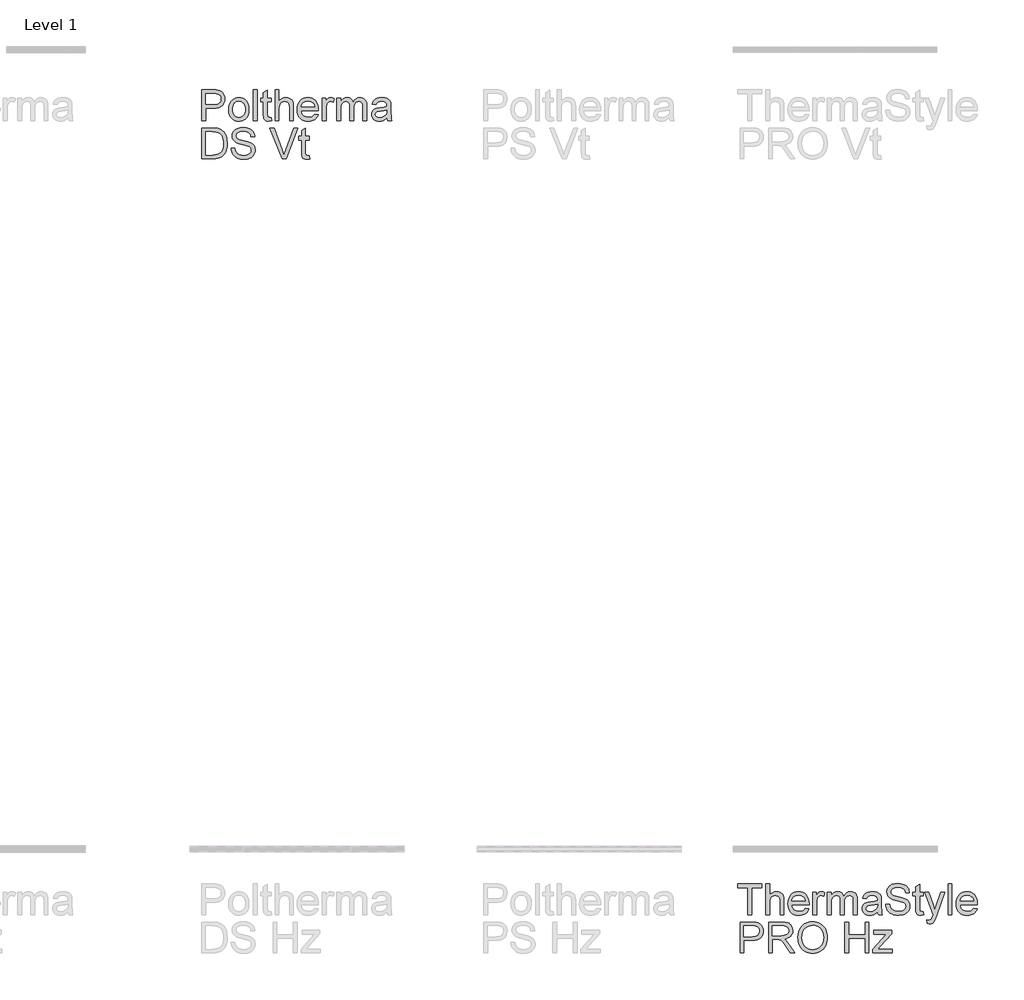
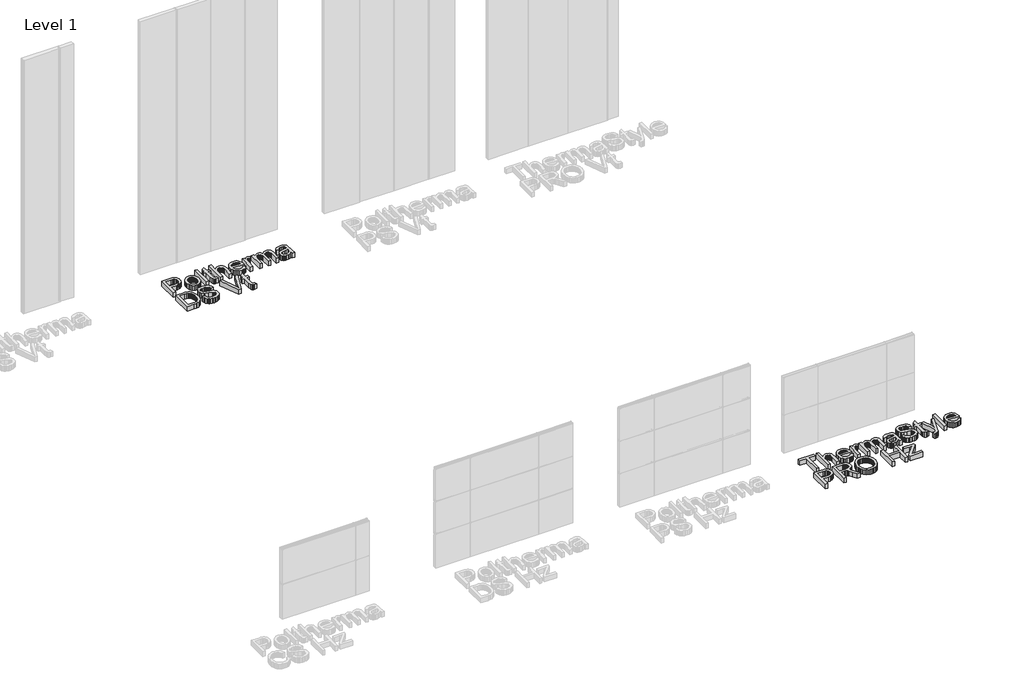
# One storey, part 19 of 27: 2 proxies.
"""IFC4 building model written with IfcOpenShell, lengths in millimetres."""

from ifc_helpers import new_model, si_unit, origin, origin_with_axes, place, context, project, spatial, polyline, outline, extrude, element, save

model = new_model("IFC4")

# Units and contexts
model_context = context("Model", 3, world=origin())
ifc_project = project(units=[si_unit("LENGTHUNIT", "METRE", prefix="MILLI")], contexts=[model_context])

# Site, building, storey
site = spatial("IfcSite", under=ifc_project)
building = spatial("IfcBuilding", under=site)
storey = spatial("IfcBuildingStorey", under=building, Name="Level 1", Elevation=0.0)

# Proxies
placement = place(None, origin())
element("IfcBuildingElementProxy", 1, Name="600mm Arial", ObjectType="600mm Arial", at=placement, inside=storey, context=model_context, shape_type="SweptSolid", body=[
    extrude(outline(polyline([(251.3160797, -4357.7938606), (251.3160797, -3767.0246299), (470.2583874, -3767.0246299), (521.2439643, -3768.4308799), (558.5276182, -3772.6496299), (597.8845893, -3783.1604472), (630.2824259, -3800.2698222), (656.3701663, -3824.7529953), (676.7968489, -3857.3852068), (689.9939643, -3895.8767933), (694.3930028, -3937.9380914), (691.4227504, -3974.2031154), (682.5119932, -4007.5654953), (667.6607312, -4038.0252308), (646.8689643, -4065.5823222), (618.3247937, -4088.4248703), (580.2163201, -4104.740976), (532.5435437, -4114.5306395), (475.3064643, -4117.7938606), (325.1622336, -4117.7938606), (325.1622336, -4357.7938606), (251.3160797, -4357.7938606)]), holes=[polyline([(325.1622336, -4043.9477068), (479.6333874, -4043.9477068), (515.1502143, -4042.2529953), (545.1141566, -4037.1688606), (569.5252143, -4028.6953029), (588.3833874, -4016.8323222), (602.4549018, -4001.8954231), (612.5059836, -3984.2001106), (618.5366326, -3963.7463847), (620.5468489, -3940.5342453), (615.8052624, -3907.3611683), (601.5805028, -3879.3803991), (579.639397, -3858.3227068), (551.748772, -3845.9188606), (523.2631951, -3842.1328029), (477.9026182, -3840.8707837), (325.1622336, -3840.8707837), (325.1622336, -4043.9477068)])]), origin_with_axes(), (0.0, 0.0, 1.0), 150.0),
    extrude(outline(polyline([(768.2391566, -4140.8707837), (772.2325461, -4084.6838847), (784.2127143, -4036.2674183), (804.1796614, -3995.6213847), (832.1333874, -3962.7457837), (860.2764163, -3941.7331635), (891.3401182, -3926.7241491), (925.3244932, -3917.7187404), (962.2295413, -3914.7169376), (1002.9702263, -3918.3722861), (1039.8076663, -3929.3383318), (1072.741861, -3947.6150746), (1101.7728105, -3973.2025145), (1125.4672215, -4005.2352669), (1142.3918009, -4042.8479472), (1152.5465485, -4086.0405553), (1155.9314643, -4134.8130914), (1154.4350701, -4174.3413366), (1149.9458874, -4209.4164568), (1142.4639163, -4240.038452), (1131.9891566, -4266.2073222), (1118.6523177, -4288.810988), (1102.5841086, -4308.7373703), (1083.7845292, -4325.9864688), (1062.2535797, -4340.5582837), (1038.8296013, -4352.1373102), (1014.3509355, -4360.4080433), (988.8175821, -4365.3704832), (962.2295413, -4367.0246299), (920.8939042, -4363.3828029), (883.7139163, -4352.4573222), (850.6895773, -4334.2481876), (821.8208874, -4308.7553991), (798.3788802, -4276.4116491), (781.6345893, -4237.6496299), (771.5880148, -4192.4693414), (768.2391566, -4140.8707837)]), holes=[polyline([(842.0853105, -4140.7265529), (844.2217288, -4176.545363), (850.6309836, -4207.5594856), (861.3130749, -4233.7689207), (876.2680028, -4255.1736683), (894.4591086, -4271.8007717), (914.8497336, -4283.6772741), (937.4398778, -4290.8031755), (962.2295413, -4293.178476), (986.8930028, -4290.7896539), (1009.3930028, -4283.6231876), (1029.7295413, -4271.679077), (1047.9026182, -4254.9573222), (1062.8575461, -4233.3407356), (1073.5396374, -4206.7121299), (1079.9488922, -4175.0715049), (1082.0853105, -4138.4188606), (1079.9353706, -4103.7358678), (1073.4855509, -4073.5330433), (1062.7358513, -4047.8103871), (1047.686272, -4026.5678991), (1029.4455869, -4009.9407957), (1009.1225701, -3998.0642933), (986.7172215, -3990.9383919), (962.2295413, -3988.5630914), (937.4398778, -3990.9293775), (914.8497336, -3998.0282356), (894.4591086, -4009.8596659), (876.2680028, -4026.4236683), (861.3130749, -4047.765315), (850.6309836, -4073.9296779), (844.2217288, -4104.9167573), (842.0853105, -4140.7265529)])]), origin_with_axes(), (0.0, 0.0, 1.0), 150.0),
    extrude(outline(polyline([(1239.0083874, -4357.7938606), (1239.0083874, -3767.0246299), (1312.8545413, -3767.0246299), (1312.8545413, -4357.7938606), (1239.0083874, -4357.7938606)])), origin_with_axes(), (0.0, 0.0, 1.0), 150.0),
    extrude(outline(polyline([(1580.5468489, -4296.2073222), (1589.7776182, -4359.9573222), (1534.5372336, -4367.0246299), (1499.092522, -4363.959726), (1472.6622336, -4354.7650145), (1453.9843489, -4340.5943414), (1441.7968489, -4322.6015529), (1435.0901182, -4291.7001106), (1432.8545413, -4238.803476), (1432.8545413, -3997.7938606), (1377.4699259, -3997.7938606), (1377.4699259, -3923.9477068), (1432.8545413, -3923.9477068), (1432.8545413, -3818.5150145), (1506.7006951, -3775.1015529), (1506.7006951, -3923.9477068), (1580.5468489, -3923.9477068), (1580.5468489, -3997.7938606), (1506.7006951, -3997.7938606), (1506.7006951, -4236.6400145), (1510.5949259, -4274.7169376), (1523.2151182, -4288.2025145), (1533.8701663, -4291.9344856), (1548.3833874, -4293.178476), (1580.5468489, -4296.2073222)])), origin_with_axes(), (0.0, 0.0, 1.0), 150.0),
    extrude(outline(polyline([(1654.3930028, -4357.7938606), (1654.3930028, -3767.0246299), (1728.2391566, -3767.0246299), (1728.2391566, -3984.2361683), (1755.3635557, -3953.8215049), (1785.8232913, -3932.0967453), (1819.6183634, -3919.0618895), (1856.748772, -3914.7169376), (1901.3521374, -3919.4585241), (1939.6814643, -3933.6832837), (1969.8617528, -3956.2734279), (1990.0180028, -3986.1111683), (2001.3761759, -4027.1087645), (2005.1622336, -4083.178476), (2005.1622336, -4357.7938606), (1931.3160797, -4357.7938606), (1931.3160797, -4090.8227068), (1929.8467288, -4065.8888126), (1925.4386759, -4044.5967453), (1918.0919211, -4026.9465049), (1907.8064643, -4012.9380914), (1894.8256951, -4002.2740289), (1879.3930028, -3994.6568414), (1861.5083874, -3990.0865289), (1841.1718489, -3988.5630914), (1809.9639163, -3992.6736683), (1780.6670413, -4005.0053991), (1756.4002143, -4024.3683799), (1740.2824259, -4049.5727068), (1731.2499739, -4083.0703029), (1728.2391566, -4127.3130914), (1728.2391566, -4357.7938606), (1654.3930028, -4357.7938606)])), origin_with_axes(), (0.0, 0.0, 1.0), 150.0),
    extrude(outline(polyline([(2410.4506951, -4228.5630914), (2482.8545413, -4237.7938606), (2471.7532792, -4266.7932597), (2456.7668009, -4292.3491491), (2437.8951062, -4314.4615289), (2415.1381951, -4333.1303991), (2388.7304427, -4347.9591251), (2358.9062239, -4358.5510722), (2325.6655388, -4364.9062404), (2289.0083874, -4367.0246299), (2243.1880749, -4363.3692813), (2202.3617528, -4352.4032356), (2166.5294211, -4334.1264928), (2135.6910797, -4308.5390529), (2110.8924018, -4276.3530553), (2093.1790605, -4238.2806395), (2082.5510557, -4194.3218053), (2079.0083874, -4144.4765529), (2082.5871134, -4092.9410962), (2093.3232913, -4047.5174183), (2111.2169211, -4008.2055193), (2136.2680028, -3975.0053991), (2167.0252143, -3948.6291972), (2202.0372336, -3929.7890529), (2241.3040605, -3918.4849664), (2284.8256951, -3914.7169376), (2326.9455869, -3918.475952), (2365.0360316, -3929.7529953), (2399.0970292, -3948.5480674), (2429.1285797, -3974.8611683), (2453.6433033, -4007.9891731), (2471.1538201, -4047.2289568), (2481.6601302, -4092.5805193), (2485.1622336, -4144.0438606), (2484.7295413, -4163.9477068), (2152.8545413, -4163.9477068), (2157.131885, -4193.4158558), (2165.6369932, -4219.2241491), (2178.3698658, -4241.3725866), (2195.3305028, -4259.8611683), (2215.5814042, -4274.4374904), (2238.1850701, -4284.8491491), (2263.1415004, -4291.0961443), (2290.4506951, -4293.178476), (2329.7535797, -4289.3203029), (2362.8545413, -4277.7457837), (2389.7535797, -4257.7337645), (2410.4506951, -4228.5630914)]), holes=[polyline([(2152.8545413, -4090.1015529), (2411.3160797, -4090.1015529), (2401.3280989, -4051.0871299), (2392.7373538, -4035.7445818), (2381.748772, -4023.178476), (2361.6105509, -4008.0342453), (2338.6958874, -3997.2169376), (2313.0047816, -3990.7265529), (2284.5372336, -3988.5630914), (2258.5711879, -3990.2893534), (2234.7595893, -3995.4681395), (2213.1024379, -4004.0994496), (2193.5997336, -4016.1832837), (2177.2340485, -4031.1607477), (2164.9879547, -4048.4729472), (2156.8614523, -4068.1198823), (2152.8545413, -4090.1015529)])]), origin_with_axes(), (0.0, 0.0, 1.0), 150.0),
    extrude(outline(polyline([(2559.0083874, -4357.7938606), (2559.0083874, -3923.9477068), (2623.623772, -3923.9477068), (2623.623772, -3988.1303991), (2647.4939643, -3950.9188606), (2669.4891566, -3928.9957837), (2691.5564643, -3918.2866491), (2715.6430028, -3914.7169376), (2752.4218489, -3920.4140529), (2789.7776182, -3937.5053991), (2765.1141566, -4003.7073222), (2739.1526182, -3992.3491491), (2713.1910797, -3988.5630914), (2691.1418009, -3992.2049183), (2671.436272, -4003.1303991), (2655.5168009, -4020.5102068), (2644.8256951, -4043.5150145), (2635.8473297, -4084.7650145), (2632.8545413, -4129.7650145), (2632.8545413, -4357.7938606), (2559.0083874, -4357.7938606)])), origin_with_axes(), (0.0, 0.0, 1.0), 150.0),
    extrude(outline(polyline([(2835.9314643, -4357.7938606), (2835.9314643, -3923.9477068), (2909.7776182, -3923.9477068), (2909.7776182, -3995.3419376), (2931.9891566, -3962.5474664), (2960.5468489, -3936.8563606), (2994.4771374, -3920.2517933), (3032.8064643, -3914.7169376), (3073.8761759, -3920.3599664), (3091.3551422, -3927.4137525), (3106.7968489, -3937.2890529), (3131.3881951, -3964.3864087), (3147.4699259, -4000.5342453), (3174.3869932, -3962.9891731), (3205.0901182, -3936.1712645), (3239.5793009, -3920.0805193), (3277.8545413, -3914.7169376), (3307.4173417, -3916.9480073), (3333.3653586, -3923.6412164), (3355.6985917, -3934.796565), (3374.4170413, -3950.4140529), (3389.2142167, -3970.6739688), (3399.7836278, -3995.756601), (3406.1252744, -4025.6619496), (3408.2391566, -4060.3900145), (3408.2391566, -4357.7938606), (3334.3930028, -4357.7938606), (3334.3930028, -4092.1207837), (3332.6802624, -4055.287851), (3327.5420413, -4030.4621299), (3317.9146374, -4013.4609279), (3302.7343489, -4000.1015529), (3283.2091086, -3991.4477068), (3260.5468489, -3988.5630914), (3239.6198658, -3990.4110481), (3220.5408393, -3995.9549183), (3203.3097696, -4005.194702), (3187.9266566, -4018.1303991), (3175.2749138, -4035.1406154), (3166.2379547, -4056.6039568), (3160.8157792, -4082.5204231), (3159.0083874, -4112.8900145), (3159.0083874, -4357.7938606), (3085.1622336, -4357.7938606), (3085.1622336, -4083.8996299), (3080.889397, -4042.1448222), (3068.0708874, -4012.3611683), (3058.1595292, -4001.9495097), (3045.5168009, -3994.5126106), (3030.1427023, -3990.0504712), (3012.0372336, -3988.5630914), (2983.5877143, -3992.5294376), (2957.373772, -4004.428476), (2935.7391566, -4023.9717453), (2921.0276182, -4050.8707837), (2912.5901182, -4088.1904953), (2909.7776182, -4138.9957837), (2909.7776182, -4357.7938606), (2835.9314643, -4357.7938606)])), origin_with_axes(), (0.0, 0.0, 1.0), 150.0),
    extrude(outline(polyline([(3795.9314643, -4302.4092453), (3760.6490124, -4332.6616491), (3724.3208874, -4352.4573222), (3686.1177624, -4363.3828029), (3645.2103105, -4367.0246299), (3612.3302023, -4364.8341251), (3583.4975701, -4358.2626106), (3558.7124138, -4347.3100866), (3537.9747336, -4331.9765529), (3521.600034, -4313.2355674), (3509.9038201, -4292.0606876), (3502.8860917, -4268.4519135), (3500.5468489, -4242.4092453), (3504.0805028, -4211.7962645), (3514.6814643, -4183.9957837), (3531.0336278, -4160.1977068), (3551.8208874, -4141.5919376), (3576.2499739, -4127.5294376), (3603.5276182, -4117.3611683), (3667.4218489, -4106.2553991), (3742.9266566, -4094.5727068), (3795.498772, -4080.8707837), (3795.9314643, -4064.428476), (3790.8473297, -4031.4717453), (3784.4921614, -4019.2662164), (3775.5949259, -4009.9092453), (3760.2163201, -4000.5703029), (3741.4843489, -3993.8996299), (3693.9603105, -3988.5630914), (3649.9699259, -3992.1147741), (3619.248772, -4002.7698222), (3598.2992528, -4022.475351), (3583.623772, -4053.178476), (3509.7776182, -4043.9477068), (3522.5961278, -4003.5630914), (3541.7247336, -3971.8323222), (3568.9482913, -3947.5654953), (3606.0516566, -3929.5727068), (3651.4302624, -3918.4308799), (3703.4795413, -3914.7169376), (3753.4014163, -3917.9981876), (3792.9747336, -3927.8419376), (3822.8124739, -3942.6436203), (3843.5276182, -3960.7986683), (3857.2655989, -3983.2445818), (3866.1718489, -4010.9188606), (3869.7776182, -4075.5342453), (3869.7776182, -4167.4092453), (3873.5276182, -4295.7025145), (3879.0805028, -4327.4152549), (3888.2391566, -4357.7938606), (3814.3930028, -4357.7938606), (3802.5660797, -4332.1207837), (3795.9314643, -4302.4092453)]), holes=[polyline([(3795.9314643, -4154.7169376), (3746.3160797, -4167.0126106), (3676.7968489, -4177.3611683), (3613.2631951, -4189.3323222), (3596.7307432, -4197.5174183), (3584.4891566, -4208.803476), (3576.9170413, -4222.3251106), (3574.3930028, -4237.2169376), (3579.8918009, -4259.1760722), (3596.3881951, -4277.1688606), (3623.5216086, -4289.1760722), (3660.9314643, -4293.178476), (3700.5949259, -4288.7614087), (3735.6430028, -4275.5102068), (3764.0564643, -4255.9849664), (3783.8160797, -4232.7457837), (3792.5780989, -4208.803476), (3795.498772, -4175.6303991), (3795.9314643, -4154.7169376)])]), origin_with_axes(), (0.0, 0.0, 1.0), 150.0),
    extrude(outline(polyline([(251.3160797, -5087.0246299), (251.3160797, -4496.2553991), (455.1141566, -4496.2553991), (516.0155989, -4498.3828029), (560.5468489, -4504.7650145), (607.6381951, -4521.1712645), (647.373772, -4547.0246299), (669.2698057, -4568.1544376), (688.2271374, -4592.0246299), (704.2457672, -4618.6352068), (717.3256951, -4647.9861683), (727.4849499, -4679.8070818), (734.7415605, -4713.8275145), (740.5468489, -4788.4669376), (736.6165605, -4851.8743895), (724.8256951, -4907.6736683), (706.8689643, -4955.1796779), (684.4410797, -4993.7073222), (658.623772, -5024.1219856), (630.498772, -5047.2890529), (598.2091086, -5064.4705433), (559.8978105, -5076.928476), (515.4927624, -5084.5005914), (464.9218489, -5087.0246299), (251.3160797, -5087.0246299)]), holes=[polyline([(325.1622336, -5013.178476), (455.8353105, -5013.178476), (509.8857913, -5010.5102068), (550.8833874, -5002.5053991), (581.8208874, -4989.6328029), (605.6910797, -4972.3611683), (631.3461278, -4940.3960241), (650.6189643, -4899.0198222), (662.6802624, -4848.0522741), (666.7006951, -4787.3130914), (664.7310437, -4744.4404953), (658.8220893, -4706.8323222), (648.9738321, -4674.4885722), (635.186272, -4647.4092453), (618.5771975, -4624.9813606), (600.264397, -4606.5919376), (580.2478706, -4592.240976), (558.5276182, -4581.928476), (516.0516566, -4573.0582837), (453.8160797, -4570.1015529), (325.1622336, -4570.1015529), (325.1622336, -5013.178476)])]), origin_with_axes(), (0.0, 0.0, 1.0), 150.0),
    extrude(outline(polyline([(814.3930028, -4883.9477068), (888.2391566, -4883.9477068), (896.7127143, -4924.9272741), (912.0372336, -4957.865976), (935.9434836, -4984.0078029), (970.1622336, -5004.5967453), (1011.9891566, -5017.9561203), (1058.7199259, -5022.4092453), (1099.8617528, -5019.037851), (1135.8833874, -5008.9236683), (1165.0720893, -4992.9140529), (1185.7151182, -4971.8563606), (1197.9927624, -4947.6796779), (1202.0853105, -4922.3130914), (1199.0204066, -4897.5955433), (1189.8256951, -4876.2313606), (1171.1478105, -4858.0041972), (1139.6333874, -4842.6977068), (1032.1093489, -4814.5005914), (961.5264163, -4795.8407356), (916.3641566, -4778.0823222), (879.6033393, -4753.2385722), (853.5516566, -4723.1303991), (838.0288201, -4688.4068414), (832.8545413, -4649.7169376), (834.4546013, -4627.7262525), (839.2547816, -4606.4657356), (847.2550821, -4585.9353871), (858.4555028, -4566.1352068), (872.7298417, -4547.8719856), (889.951897, -4531.9525145), (910.1216687, -4518.3767933), (933.2391566, -4507.1448222), (985.1982913, -4492.0546779), (1042.7103105, -4487.0246299), (1105.0180028, -4492.2890529), (1159.5372336, -4508.0823222), (1183.389397, -4519.8461443), (1204.3208874, -4534.0799183), (1222.3317047, -4550.7836443), (1237.4218489, -4569.9573222), (1249.4741326, -4591.0420578), (1258.3713682, -4613.4789568), (1264.1135557, -4637.2680193), (1266.7006951, -4662.4092453), (1192.8545413, -4662.4092453), (1187.9146374, -4638.8455433), (1179.2968489, -4618.3467453), (1167.0011759, -4600.912851), (1151.0276182, -4586.5438606), (1131.0786999, -4575.3118895), (1106.8569451, -4567.2890529), (1078.3623538, -4562.475351), (1045.5949259, -4560.8707837), (1011.7818249, -4562.4573222), (982.8905989, -4567.2169376), (958.921248, -4575.1496299), (939.873772, -4586.2553991), (925.3605509, -4599.6057597), (914.9939643, -4614.272226), (908.7740124, -4630.2547981), (906.7006951, -4647.553476), (912.5780989, -4675.9308799), (930.2103105, -4698.7553991), (946.4002143, -4708.9056395), (971.8930028, -4719.1640529), (1050.7872336, -4740.0053991), (1132.2055028, -4759.8010722), (1181.4603105, -4777.0727068), (1223.5576663, -4803.8635722), (1239.8332071, -4819.6117693), (1252.9266566, -4836.928476), (1262.99126, -4855.7235481), (1270.1802624, -4875.9068414), (1275.9314643, -4920.4380914), (1274.2773177, -4943.5375505), (1269.3148778, -4965.9609279), (1261.0441446, -4987.7082236), (1249.4651182, -5008.7794376), (1234.780623, -5028.3587645), (1217.1934836, -5045.6303991), (1196.7036999, -5060.5943414), (1173.311272, -5073.2505914), (1147.6967888, -5083.3151948), (1120.5408393, -5090.5041972), (1061.6045413, -5096.2553991), (1023.8296013, -5094.7049183), (989.2547816, -5090.053476), (957.8800821, -5082.3010722), (929.7055028, -5071.4477068), (904.5597696, -5057.475351), (882.2716086, -5040.365976), (862.8410196, -5020.1195818), (846.2680028, -4996.7361683), (832.9176422, -4970.9729472), (823.155022, -4943.5871299), (816.9801422, -4914.5787164), (814.3930028, -4883.9477068)])), origin_with_axes(), (0.0, 0.0, 1.0), 150.0),
    extrude(outline(polyline([(1791.9891566, -5087.0246299), (1556.8930028, -4496.2553991), (1635.9314643, -4496.2553991), (1793.2872336, -4921.8803991), (1825.1622336, -5017.7938606), (1856.6045413, -4921.8803991), (2014.3930028, -4496.2553991), (2093.4314643, -4496.2553991), (1868.2872336, -5087.0246299), (1791.9891566, -5087.0246299)])), origin_with_axes(), (0.0, 0.0, 1.0), 150.0),
    extrude(outline(polyline([(2309.7776182, -5025.4380914), (2319.0083874, -5089.1880914), (2263.7680028, -5096.2553991), (2228.3232913, -5093.1904953), (2201.8930028, -5083.9957837), (2183.2151182, -5069.8251106), (2171.0276182, -5051.8323222), (2164.3208874, -5020.9308799), (2162.0853105, -4968.0342453), (2162.0853105, -4727.0246299), (2106.7006951, -4727.0246299), (2106.7006951, -4653.178476), (2162.0853105, -4653.178476), (2162.0853105, -4547.7457837), (2235.9314643, -4504.3323222), (2235.9314643, -4653.178476), (2309.7776182, -4653.178476), (2309.7776182, -4727.0246299), (2235.9314643, -4727.0246299), (2235.9314643, -4965.8707837), (2239.8256951, -5003.9477068), (2252.4458874, -5017.4332837), (2263.1009355, -5021.1652549), (2277.6141566, -5022.4092453), (2309.7776182, -5025.4380914)])), origin_with_axes(), (0.0, 0.0, 1.0), 150.0),
])
element("IfcBuildingElementProxy", 2, Name="600mm Arial", ObjectType="600mm Arial", at=placement, inside=storey, context=model_context, shape_type="SweptSolid", body=[
    extrude(outline(polyline([(10699.0083874, -19557.7938606), (10699.0083874, -19040.8707837), (10505.1622336, -19040.8707837), (10505.1622336, -18967.0246299), (10966.7006951, -18967.0246299), (10966.7006951, -19040.8707837), (10772.8545413, -19040.8707837), (10772.8545413, -19557.7938606), (10699.0083874, -19557.7938606)])), origin_with_axes(), (0.0, 0.0, 1.0), 150.0),
    extrude(outline(polyline([(11040.5468489, -19557.7938606), (11040.5468489, -18967.0246299), (11114.3930028, -18967.0246299), (11114.3930028, -19184.2361683), (11141.5174018, -19153.8215049), (11171.9771374, -19132.0967453), (11205.7722095, -19119.0618895), (11242.9026182, -19114.7169376), (11287.5059836, -19119.4585241), (11325.8353105, -19133.6832837), (11356.0155989, -19156.2734279), (11376.1718489, -19186.1111683), (11387.530022, -19227.1087645), (11391.3160797, -19283.178476), (11391.3160797, -19557.7938606), (11317.4699259, -19557.7938606), (11317.4699259, -19290.8227068), (11316.0005749, -19265.8888126), (11311.592522, -19244.5967453), (11304.2457672, -19226.9465049), (11293.9603105, -19212.9380914), (11280.9795413, -19202.2740289), (11265.5468489, -19194.6568414), (11247.6622336, -19190.0865289), (11227.3256951, -19188.5630914), (11196.1177624, -19192.6736683), (11166.8208874, -19205.0053991), (11142.5540605, -19224.3683799), (11126.436272, -19249.5727068), (11117.4038201, -19283.0703029), (11114.3930028, -19327.3130914), (11114.3930028, -19557.7938606), (11040.5468489, -19557.7938606)])), origin_with_axes(), (0.0, 0.0, 1.0), 150.0),
    extrude(outline(polyline([(11796.6045413, -19428.5630914), (11869.0083874, -19437.7938606), (11857.9071254, -19466.7932597), (11842.920647, -19492.3491491), (11824.0489523, -19514.4615289), (11801.2920413, -19533.1303991), (11774.8842888, -19547.9591251), (11745.0600701, -19558.5510722), (11711.819385, -19564.9062404), (11675.1622336, -19567.0246299), (11629.3419211, -19563.3692813), (11588.5155989, -19552.4032356), (11552.6832672, -19534.1264928), (11521.8449259, -19508.5390529), (11497.046248, -19476.3530553), (11479.3329066, -19438.2806395), (11468.7049018, -19394.3218053), (11465.1622336, -19344.4765529), (11468.7409595, -19292.9410962), (11479.4771374, -19247.5174183), (11497.3707672, -19208.2055193), (11522.4218489, -19175.0053991), (11553.1790605, -19148.6291972), (11588.1910797, -19129.7890529), (11627.4579066, -19118.4849664), (11670.9795413, -19114.7169376), (11713.0994331, -19118.475952), (11751.1898778, -19129.7529953), (11785.2508754, -19148.5480674), (11815.2824259, -19174.8611683), (11839.7971494, -19207.9891731), (11857.3076663, -19247.2289568), (11867.8139763, -19292.5805193), (11871.3160797, -19344.0438606), (11870.8833874, -19363.9477068), (11539.0083874, -19363.9477068), (11543.2857312, -19393.4158558), (11551.7908393, -19419.2241491), (11564.5237119, -19441.3725866), (11581.4843489, -19459.8611683), (11601.7352504, -19474.4374904), (11624.3389163, -19484.8491491), (11649.2953465, -19491.0961443), (11676.6045413, -19493.178476), (11715.9074259, -19489.3203029), (11749.0083874, -19477.7457837), (11775.9074259, -19457.7337645), (11796.6045413, -19428.5630914)]), holes=[polyline([(11539.0083874, -19290.1015529), (11797.4699259, -19290.1015529), (11787.4819451, -19251.0871299), (11778.8911999, -19235.7445818), (11767.9026182, -19223.178476), (11747.764397, -19208.0342453), (11724.8497336, -19197.2169376), (11699.1586278, -19190.7265529), (11670.6910797, -19188.5630914), (11644.725034, -19190.2893534), (11620.9134355, -19195.4681395), (11599.256284, -19204.0994496), (11579.7535797, -19216.1832837), (11563.3878946, -19231.1607477), (11551.1418009, -19248.4729472), (11543.0152985, -19268.1198823), (11539.0083874, -19290.1015529)])]), origin_with_axes(), (0.0, 0.0, 1.0), 150.0),
    extrude(outline(polyline([(11945.1622336, -19557.7938606), (11945.1622336, -19123.9477068), (12009.7776182, -19123.9477068), (12009.7776182, -19188.1303991), (12033.6478105, -19150.9188606), (12055.6430028, -19128.9957837), (12077.7103105, -19118.2866491), (12101.7968489, -19114.7169376), (12138.5756951, -19120.4140529), (12175.9314643, -19137.5053991), (12151.2680028, -19203.7073222), (12125.3064643, -19192.3491491), (12099.3449259, -19188.5630914), (12077.295647, -19192.2049183), (12057.5901182, -19203.1303991), (12041.670647, -19220.5102068), (12030.9795413, -19243.5150145), (12022.0011759, -19284.7650145), (12019.0083874, -19329.7650145), (12019.0083874, -19557.7938606), (11945.1622336, -19557.7938606)])), origin_with_axes(), (0.0, 0.0, 1.0), 150.0),
    extrude(outline(polyline([(12222.0853105, -19557.7938606), (12222.0853105, -19123.9477068), (12295.9314643, -19123.9477068), (12295.9314643, -19195.3419376), (12318.1430028, -19162.5474664), (12346.7006951, -19136.8563606), (12380.6309836, -19120.2517933), (12418.9603105, -19114.7169376), (12460.030022, -19120.3599664), (12477.5089884, -19127.4137525), (12492.9506951, -19137.2890529), (12517.5420413, -19164.3864087), (12533.623772, -19200.5342453), (12560.5408393, -19162.9891731), (12591.2439643, -19136.1712645), (12625.733147, -19120.0805193), (12664.0083874, -19114.7169376), (12693.5711879, -19116.9480073), (12719.5192047, -19123.6412164), (12741.8524379, -19134.796565), (12760.5708874, -19150.4140529), (12775.3680629, -19170.6739688), (12785.9374739, -19195.756601), (12792.2791206, -19225.6619496), (12794.3930028, -19260.3900145), (12794.3930028, -19557.7938606), (12720.5468489, -19557.7938606), (12720.5468489, -19292.1207837), (12718.8341086, -19255.287851), (12713.6958874, -19230.4621299), (12704.0684836, -19213.4609279), (12688.8881951, -19200.1015529), (12669.3629547, -19191.4477068), (12646.7006951, -19188.5630914), (12625.7737119, -19190.4110481), (12606.6946855, -19195.9549183), (12589.4636158, -19205.194702), (12574.0805028, -19218.1303991), (12561.42876, -19235.1406154), (12552.3918009, -19256.6039568), (12546.9696254, -19282.5204231), (12545.1622336, -19312.8900145), (12545.1622336, -19557.7938606), (12471.3160797, -19557.7938606), (12471.3160797, -19283.8996299), (12467.0432432, -19242.1448222), (12454.2247336, -19212.3611683), (12444.3133754, -19201.9495097), (12431.670647, -19194.5126106), (12416.2965485, -19190.0504712), (12398.1910797, -19188.5630914), (12369.7415605, -19192.5294376), (12343.5276182, -19204.428476), (12321.8930028, -19223.9717453), (12307.1814643, -19250.8707837), (12298.7439643, -19288.1904953), (12295.9314643, -19338.9957837), (12295.9314643, -19557.7938606), (12222.0853105, -19557.7938606)])), origin_with_axes(), (0.0, 0.0, 1.0), 150.0),
    extrude(outline(polyline([(13182.0853105, -19502.4092453), (13146.8028586, -19532.6616491), (13110.4747336, -19552.4573222), (13072.2716086, -19563.3828029), (13031.3641566, -19567.0246299), (12998.4840485, -19564.8341251), (12969.6514163, -19558.2626106), (12944.86626, -19547.3100866), (12924.1285797, -19531.9765529), (12907.7538802, -19513.2355674), (12896.0576663, -19492.0606876), (12889.0399379, -19468.4519135), (12886.7006951, -19442.4092453), (12890.2343489, -19411.7962645), (12900.8353105, -19383.9957837), (12917.1874739, -19360.1977068), (12937.9747336, -19341.5919376), (12962.4038201, -19327.5294376), (12989.6814643, -19317.3611683), (13053.5756951, -19306.2553991), (13129.0805028, -19294.5727068), (13181.6526182, -19280.8707837), (13182.0853105, -19264.428476), (13177.0011759, -19231.4717453), (13170.6460076, -19219.2662164), (13161.748772, -19209.9092453), (13146.3701663, -19200.5703029), (13127.6381951, -19193.8996299), (13080.1141566, -19188.5630914), (13036.123772, -19192.1147741), (13005.4026182, -19202.7698222), (12984.4530989, -19222.475351), (12969.7776182, -19253.178476), (12895.9314643, -19243.9477068), (12908.7499739, -19203.5630914), (12927.8785797, -19171.8323222), (12955.1021374, -19147.5654953), (12992.2055028, -19129.5727068), (13037.5841086, -19118.4308799), (13089.6333874, -19114.7169376), (13139.5552624, -19117.9981876), (13179.1285797, -19127.8419376), (13208.9663201, -19142.6436203), (13229.6814643, -19160.7986683), (13243.4194451, -19183.2445818), (13252.3256951, -19210.9188606), (13255.9314643, -19275.5342453), (13255.9314643, -19367.4092453), (13259.6814643, -19495.7025145), (13265.2343489, -19527.4152549), (13274.3930028, -19557.7938606), (13200.5468489, -19557.7938606), (13188.7199259, -19532.1207837), (13182.0853105, -19502.4092453)]), holes=[polyline([(13182.0853105, -19354.7169376), (13132.4699259, -19367.0126106), (13062.9506951, -19377.3611683), (12999.4170413, -19389.3323222), (12982.8845893, -19397.5174183), (12970.6430028, -19408.803476), (12963.0708874, -19422.3251106), (12960.5468489, -19437.2169376), (12966.045647, -19459.1760722), (12982.5420413, -19477.1688606), (13009.6754547, -19489.1760722), (13047.0853105, -19493.178476), (13086.748772, -19488.7614087), (13121.7968489, -19475.5102068), (13150.2103105, -19455.9849664), (13169.9699259, -19432.7457837), (13178.7319451, -19408.803476), (13181.6526182, -19375.6303991), (13182.0853105, -19354.7169376)])]), origin_with_axes(), (0.0, 0.0, 1.0), 150.0),
    extrude(outline(polyline([(13339.0083874, -19354.7169376), (13412.8545413, -19354.7169376), (13421.3280989, -19395.6965049), (13436.6526182, -19428.6352068), (13460.5588682, -19454.7770337), (13494.7776182, -19475.365976), (13536.6045413, -19488.725351), (13583.3353105, -19493.178476), (13624.4771374, -19489.8070818), (13660.498772, -19479.6928991), (13689.6874739, -19463.6832837), (13710.3305028, -19442.6255914), (13722.608147, -19418.4489087), (13726.7006951, -19393.0823222), (13723.6357913, -19368.3647741), (13714.4410797, -19347.0005914), (13695.7631951, -19328.7734279), (13664.248772, -19313.4669376), (13556.7247336, -19285.2698222), (13486.1418009, -19266.6099664), (13440.9795413, -19248.8515529), (13404.2187239, -19224.0078029), (13378.1670413, -19193.8996299), (13362.6442047, -19159.1760722), (13357.4699259, -19120.4861683), (13359.069986, -19098.4954832), (13363.8701663, -19077.2349664), (13371.8704667, -19056.7046178), (13383.0708874, -19036.9044376), (13397.3452263, -19018.6412164), (13414.5672816, -19002.7217453), (13434.7370533, -18989.1460241), (13457.8545413, -18977.9140529), (13509.8136759, -18962.8239087), (13567.3256951, -18957.7938606), (13629.6333874, -18963.0582837), (13684.1526182, -18978.8515529), (13708.0047816, -18990.6153751), (13728.936272, -19004.8491491), (13746.9470893, -19021.5528751), (13762.0372336, -19040.7265529), (13774.0895172, -19061.8112885), (13782.9867528, -19084.2481876), (13788.7289403, -19108.0372501), (13791.3160797, -19133.178476), (13717.4699259, -19133.178476), (13712.530022, -19109.6147741), (13703.9122336, -19089.115976), (13691.6165605, -19071.6820818), (13675.6430028, -19057.3130914), (13655.6940845, -19046.0811203), (13631.4723297, -19038.0582837), (13602.9777384, -19033.2445818), (13570.2103105, -19031.6400145), (13536.3972095, -19033.2265529), (13507.5059836, -19037.9861683), (13483.5366326, -19045.9188606), (13464.4891566, -19057.0246299), (13449.9759355, -19070.3749904), (13439.6093489, -19085.0414568), (13433.389397, -19101.0240289), (13431.3160797, -19118.3227068), (13437.1934836, -19146.7001106), (13454.8256951, -19169.5246299), (13471.0155989, -19179.6748703), (13496.5083874, -19189.9332837), (13575.4026182, -19210.7746299), (13656.8208874, -19230.5703029), (13706.0756951, -19247.8419376), (13748.1730509, -19274.6328029), (13764.4485917, -19290.3810001), (13777.5420413, -19307.6977068), (13787.6066446, -19326.4927789), (13794.795647, -19346.6760722), (13800.5468489, -19391.2073222), (13798.8927023, -19414.3067813), (13793.9302624, -19436.7301587), (13785.6595292, -19458.4774544), (13774.0805028, -19479.5486683), (13759.3960076, -19499.1279953), (13741.8088682, -19516.3996299), (13721.3190845, -19531.3635722), (13697.9266566, -19544.0198222), (13672.3121735, -19554.0844255), (13645.1562239, -19561.2734279), (13586.2199259, -19567.0246299), (13548.444986, -19565.4741491), (13513.8701663, -19560.8227068), (13482.4954667, -19553.0703029), (13454.3208874, -19542.2169376), (13429.1751542, -19528.2445818), (13406.8869932, -19511.1352068), (13387.4564042, -19490.8888126), (13370.8833874, -19467.5053991), (13357.5330268, -19441.7421779), (13347.7704066, -19414.3563606), (13341.5955268, -19385.3479472), (13339.0083874, -19354.7169376)])), origin_with_axes(), (0.0, 0.0, 1.0), 150.0),
    extrude(outline(polyline([(14059.0083874, -19496.2073222), (14068.2391566, -19559.9573222), (14012.998772, -19567.0246299), (13977.5540605, -19563.959726), (13951.123772, -19554.7650145), (13932.4458874, -19540.5943414), (13920.2583874, -19522.6015529), (13913.5516566, -19491.7001106), (13911.3160797, -19438.803476), (13911.3160797, -19197.7938606), (13855.9314643, -19197.7938606), (13855.9314643, -19123.9477068), (13911.3160797, -19123.9477068), (13911.3160797, -19018.5150145), (13985.1622336, -18975.1015529), (13985.1622336, -19123.9477068), (14059.0083874, -19123.9477068), (14059.0083874, -19197.7938606), (13985.1622336, -19197.7938606), (13985.1622336, -19436.6400145), (13989.0564643, -19474.7169376), (14001.6766566, -19488.2025145), (14012.3317047, -19491.9344856), (14026.8449259, -19493.178476), (14059.0083874, -19496.2073222)])), origin_with_axes(), (0.0, 0.0, 1.0), 150.0),
    extrude(outline(polyline([(14132.8545413, -19723.9477068), (14123.623772, -19652.8419376), (14161.123772, -19659.3323222), (14180.8473297, -19657.2950626), (14196.1718489, -19651.1832837), (14208.1069451, -19641.4296779), (14217.6622336, -19628.4669376), (14237.8545413, -19574.0919376), (14243.623772, -19556.2073222), (14086.7006951, -19123.9477068), (14164.5853105, -19123.9477068), (14247.8064643, -19364.8130914), (14276.7968489, -19461.1592453), (14305.7872336, -19376.0630914), (14391.3160797, -19123.9477068), (14468.623772, -19123.9477068), (14317.6141566, -19568.178476), (14278.3833874, -19664.5246299), (14258.2992528, -19695.2818414), (14235.5468489, -19716.5919376), (14209.1165605, -19729.0318414), (14177.998772, -19733.178476), (14156.6165605, -19730.8707837), (14132.8545413, -19723.9477068)])), origin_with_axes(), (0.0, 0.0, 1.0), 150.0),
    extrude(outline(polyline([(14529.7776182, -19557.7938606), (14529.7776182, -18967.0246299), (14603.623772, -18967.0246299), (14603.623772, -19557.7938606), (14529.7776182, -19557.7938606)])), origin_with_axes(), (0.0, 0.0, 1.0), 150.0),
    extrude(outline(polyline([(15018.1430028, -19428.5630914), (15090.5468489, -19437.7938606), (15079.4455869, -19466.7932597), (15064.4591086, -19492.3491491), (15045.5874138, -19514.4615289), (15022.8305028, -19533.1303991), (14996.4227504, -19547.9591251), (14966.5985316, -19558.5510722), (14933.3578465, -19564.9062404), (14896.7006951, -19567.0246299), (14850.8803826, -19563.3692813), (14810.0540605, -19552.4032356), (14774.2217288, -19534.1264928), (14743.3833874, -19508.5390529), (14718.5847095, -19476.3530553), (14700.8713682, -19438.2806395), (14690.2433634, -19394.3218053), (14686.7006951, -19344.4765529), (14690.2794211, -19292.9410962), (14701.0155989, -19247.5174183), (14718.9092288, -19208.2055193), (14743.9603105, -19175.0053991), (14774.717522, -19148.6291972), (14809.7295413, -19129.7890529), (14848.9963682, -19118.4849664), (14892.5180028, -19114.7169376), (14934.6378946, -19118.475952), (14972.7283393, -19129.7529953), (15006.7893369, -19148.5480674), (15036.8208874, -19174.8611683), (15061.335611, -19207.9891731), (15078.8461278, -19247.2289568), (15089.3524379, -19292.5805193), (15092.8545413, -19344.0438606), (15092.4218489, -19363.9477068), (14760.5468489, -19363.9477068), (14764.8241927, -19393.4158558), (14773.3293009, -19419.2241491), (14786.0621735, -19441.3725866), (14803.0228105, -19459.8611683), (14823.2737119, -19474.4374904), (14845.8773778, -19484.8491491), (14870.8338081, -19491.0961443), (14898.1430028, -19493.178476), (14937.4458874, -19489.3203029), (14970.5468489, -19477.7457837), (14997.4458874, -19457.7337645), (15018.1430028, -19428.5630914)]), holes=[polyline([(14760.5468489, -19290.1015529), (15019.0083874, -19290.1015529), (15009.0204066, -19251.0871299), (15000.4296614, -19235.7445818), (14989.4410797, -19223.178476), (14969.3028586, -19208.0342453), (14946.3881951, -19197.2169376), (14920.6970893, -19190.7265529), (14892.2295413, -19188.5630914), (14866.2634956, -19190.2893534), (14842.451897, -19195.4681395), (14820.7947456, -19204.0994496), (14801.2920413, -19216.1832837), (14784.9263562, -19231.1607477), (14772.6802624, -19248.4729472), (14764.55376, -19268.1198823), (14760.5468489, -19290.1015529)])]), origin_with_axes(), (0.0, 0.0, 1.0), 150.0),
    extrude(outline(polyline([(10551.3160797, -20287.0246299), (10551.3160797, -19696.2553991), (10770.2583874, -19696.2553991), (10821.2439643, -19697.6616491), (10858.5276182, -19701.8803991), (10897.8845893, -19712.3912164), (10930.2824259, -19729.5005914), (10956.3701663, -19753.9837645), (10976.7968489, -19786.615976), (10989.9939643, -19825.1075626), (10994.3930028, -19867.1688606), (10991.4227504, -19903.4338847), (10982.5119932, -19936.7962645), (10967.6607312, -19967.2560001), (10946.8689643, -19994.8130914), (10918.3247937, -20017.6556395), (10880.2163201, -20033.9717453), (10832.5435437, -20043.7614087), (10775.3064643, -20047.0246299), (10625.1622336, -20047.0246299), (10625.1622336, -20287.0246299), (10551.3160797, -20287.0246299)]), holes=[polyline([(10625.1622336, -19973.178476), (10779.6333874, -19973.178476), (10815.1502143, -19971.4837645), (10845.1141566, -19966.3996299), (10869.5252143, -19957.9260722), (10888.3833874, -19946.0630914), (10902.4549018, -19931.1261924), (10912.5059836, -19913.4308799), (10918.5366326, -19892.9771539), (10920.5468489, -19869.7650145), (10915.8052624, -19836.5919376), (10901.5805028, -19808.6111683), (10879.639397, -19787.553476), (10851.748772, -19775.1496299), (10823.2631951, -19771.3635722), (10777.9026182, -19770.1015529), (10625.1622336, -19770.1015529), (10625.1622336, -19973.178476)])]), origin_with_axes(), (0.0, 0.0, 1.0), 150.0),
    extrude(outline(polyline([(11095.9314643, -20287.0246299), (11095.9314643, -19696.2553991), (11350.498772, -19696.2553991), (11418.9182432, -19700.2397741), (11468.6958874, -19712.1928991), (11487.905623, -19721.694101), (11505.0780989, -19734.2602068), (11520.2133153, -19749.8912164), (11533.311272, -19768.5871299), (11543.8806831, -19789.342839), (11551.4302624, -19811.1532356), (11557.4699259, -19857.9380914), (11554.9684235, -19888.2806395), (11547.4639163, -19916.1352068), (11534.9564042, -19941.5017933), (11517.4458874, -19964.3803991), (11494.7070052, -19984.0408558), (11466.514397, -19999.7529953), (11432.8680629, -20011.5168174), (11393.7680028, -20019.3323222), (11418.1069451, -20035.2337645), (11435.7391566, -20050.9188606), (11495.5949259, -20126.928476), (11594.1045413, -20287.0246299), (11508.2872336, -20287.0246299), (11431.4122336, -20164.5727068), (11375.8833874, -20083.5150145), (11355.2403586, -20059.8791972), (11336.8689643, -20045.2217453), (11301.748772, -20031.1592453), (11258.9122336, -20028.5630914), (11169.7776182, -20028.5630914), (11169.7776182, -20287.0246299), (11095.9314643, -20287.0246299)]), holes=[polyline([(11169.7776182, -19954.7169376), (11335.0660797, -19954.7169376), (11382.5360316, -19952.1027549), (11419.3689643, -19944.2602068), (11447.0973297, -19930.6664568), (11467.2535797, -19910.7986683), (11479.5312239, -19886.7662164), (11483.623772, -19860.678476), (11481.6721494, -19841.7932597), (11475.8172816, -19824.6568414), (11466.0591687, -19809.2692212), (11452.3978105, -19795.6303991), (11434.5177023, -19784.4615289), (11412.1033393, -19776.4837645), (11385.1547215, -19771.6971058), (11353.6718489, -19770.1015529), (11169.7776182, -19770.1015529), (11169.7776182, -19954.7169376)])]), origin_with_axes(), (0.0, 0.0, 1.0), 150.0),
    extrude(outline(polyline([(11659.0083874, -19999.428476), (11663.9302624, -19930.1346058), (11678.6958874, -19868.7914568), (11703.3052624, -19815.3990289), (11737.7583874, -19769.9573222), (11779.9909595, -19733.6742693), (11827.9386759, -19707.7578029), (11881.6015364, -19692.2079231), (11940.9795413, -19687.0246299), (11980.7241326, -19689.4585241), (12018.467522, -19696.7602068), (12054.2097095, -19708.9296779), (12087.9506951, -19725.9669376), (12118.7439643, -19747.3581635), (12145.6430028, -19772.5895337), (12168.6478105, -19801.6610481), (12187.7583874, -19834.5727068), (12202.7764163, -19870.5763126), (12213.5035797, -19908.9236683), (12219.9398778, -19949.6147741), (12222.0853105, -19992.6496299), (12219.8271975, -20036.2523943), (12213.0528586, -20077.4933799), (12201.7622937, -20116.3725866), (12185.9555028, -20152.8900145), (12166.0065845, -20186.0811203), (12142.2896374, -20214.9813606), (12114.8046614, -20239.5907356), (12083.5516566, -20259.9092453), (12049.7610917, -20275.8106876), (12014.6634355, -20287.1688606), (11978.2586879, -20293.9837645), (11940.5468489, -20296.2553991), (11900.108147, -20293.7448823), (11861.8689643, -20286.2133318), (11825.8293009, -20273.6607477), (11791.9891566, -20256.0871299), (11761.2319451, -20234.1730674), (11734.4410797, -20208.5991491), (11711.6165605, -20179.3653751), (11692.7583874, -20146.4717453), (11677.9927624, -20111.2388727), (11667.4458874, -20074.9873703), (11661.1177624, -20037.717238), (11659.0083874, -19999.428476)]), holes=[polyline([(11732.8545413, -20000.1496299), (11736.5459475, -20049.1069616), (11747.6201663, -20092.5654953), (11766.0771975, -20130.5252308), (11791.9170413, -20162.9861683), (11823.3277985, -20188.9837645), (11858.4975701, -20207.553476), (11897.4263562, -20218.6953029), (11940.1141566, -20222.4092453), (11983.5321254, -20218.6592453), (12022.920647, -20207.4092453), (12058.2797215, -20188.6592453), (12089.6093489, -20162.4092453), (12115.2598898, -20129.2632116), (12133.5817047, -20089.8251106), (12144.5747937, -20044.0949424), (12148.2391566, -19992.0727068), (12146.670647, -19958.2776347), (12141.9651182, -19926.7001106), (12134.1225701, -19897.3401347), (12123.1430028, -19870.1977068), (12109.148111, -19845.6288967), (12092.2595893, -19823.9897741), (12072.4774379, -19805.280339), (12049.8016566, -19789.5005914), (12024.9353706, -19776.9750505), (11998.5817047, -19768.0282356), (11970.740659, -19762.6601467), (11941.4122336, -19760.8707837), (11900.2073057, -19764.3188005), (11861.9771374, -19774.662851), (11826.7217288, -19791.9029352), (11794.4410797, -19816.0390529), (11767.4969691, -19848.234065), (11748.2511759, -19889.6508318), (11736.7036999, -19940.2893534), (11732.8545413, -20000.1496299)])]), origin_with_axes(), (0.0, 0.0, 1.0), 150.0),
    extrude(outline(polyline([(12554.3930028, -20287.0246299), (12554.3930028, -19696.2553991), (12628.2391566, -19696.2553991), (12628.2391566, -19936.2553991), (12942.0853105, -19936.2553991), (12942.0853105, -19696.2553991), (13015.9314643, -19696.2553991), (13015.9314643, -20287.0246299), (12942.0853105, -20287.0246299), (12942.0853105, -20010.1015529), (12628.2391566, -20010.1015529), (12628.2391566, -20287.0246299), (12554.3930028, -20287.0246299)])), origin_with_axes(), (0.0, 0.0, 1.0), 150.0),
    extrude(outline(polyline([(13089.7776182, -20287.0246299), (13089.7776182, -20217.5053991), (13344.6333874, -19927.0246299), (13269.2006951, -19927.0246299), (13108.2391566, -19927.0246299), (13108.2391566, -19853.178476), (13449.7776182, -19853.178476), (13449.7776182, -19915.9188606), (13223.7680028, -20173.6592453), (13189.1526182, -20213.178476), (13274.5372336, -20213.178476), (13459.0083874, -20213.178476), (13459.0083874, -20287.0246299), (13089.7776182, -20287.0246299)])), origin_with_axes(), (0.0, 0.0, 1.0), 150.0),
])

save(model, "model.ifc")
